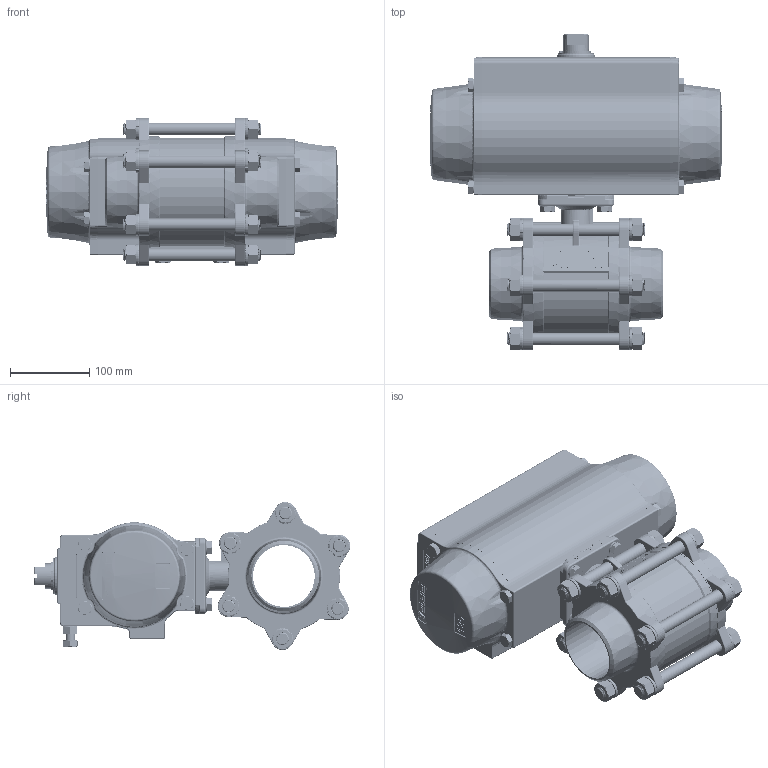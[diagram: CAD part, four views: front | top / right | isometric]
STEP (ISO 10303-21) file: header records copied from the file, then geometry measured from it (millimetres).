
FILE_DESCRIPTION((''),'2;1');
FILE_NAME('M:\3D-Files nach Lieferanten\TA-Produkte\angetriebene Armaturen\Register 8\RB_791x\7914 080 SR125.stp','2021-12-21T14:27:14',('RL'),(''),'Autodesk Inventor 2012','Autodesk Inventor 2012','');
FILE_SCHEMA(('AUTOMOTIVE_DESIGN { 1 0 10303 214 1 1 1 1 }'));
Length unit declared in the file: millimetre
Products named in the file (1): 7914_080_82SR125
Bounding box: 370.46 x 400.41 x 187.25 mm (x, y, z)
Volume: 8533829.3 mm3; surface area: 662340.7 mm2
Topology: 1 solids, 14 shells, 3633 faces, 10245 edges, 6573 vertices
Faces by surface type: plane 1314, bspline 768, cylinder 767, cone 476, torus 186, sphere 122
Full cylindrical faces by diameter (mm): 2.5 x2, 3 x1, 4 x1, 4.2 x13, 4.5 x10, 5 x1, 6 x2, 6.8 x4, 8.5 x4, 9 x4, 10 x4, 11 x4, 11.445 x2, 12 x2, 16 x74, 16.5 x12, 17 x1, 18 x2, 20.1 x2, 23 x7, 23.5 x2, 23.6 x1, 24.3 x2, 24.8 x1, 26.4 x1, 27 x4, 27.1 x1, 28 x1, 28.9 x1, 29.8 x1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
Entity records: 231987 total; most frequent: CARTESIAN_POINT 148445, ORIENTED_EDGE 19482, DIRECTION 14242, EDGE_CURVE 9741, VERTEX_POINT 6438, AXIS2_PLACEMENT_3D 5533, EDGE_LOOP 4070, FACE_OUTER_BOUND 3550
